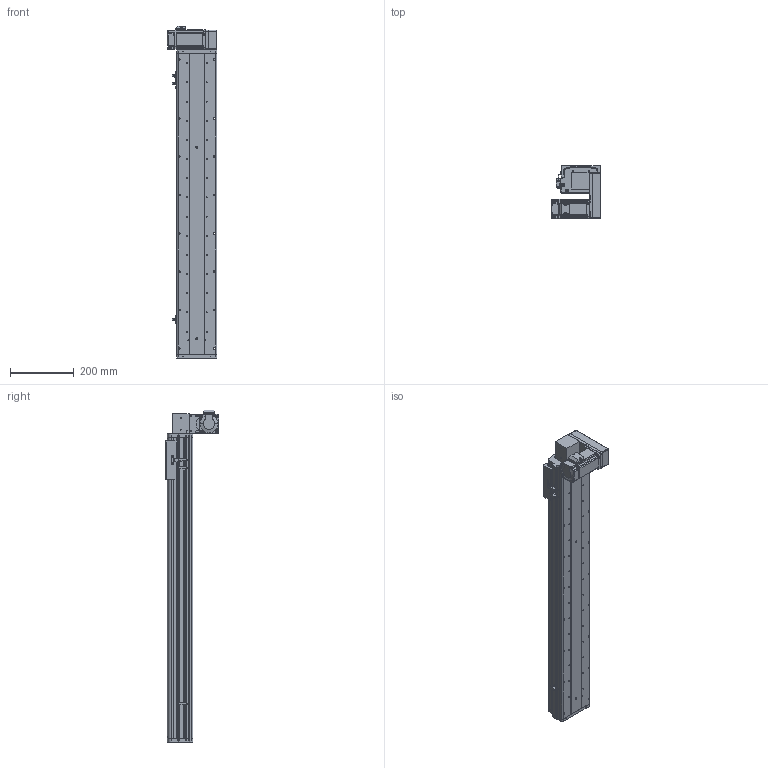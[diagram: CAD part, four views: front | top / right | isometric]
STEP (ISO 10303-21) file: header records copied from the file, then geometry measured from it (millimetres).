
FILE_DESCRIPTION (( 'STEP AP214' ), '1' );
FILE_NAME ('KSD125B-S750-MLD-CM.STEP', '2017-10-21T02:23:51', ( '微软用户' ), ( '微软中国' ), 'SwSTEP 2.0', 'SolidWorks 2014', '' );
FILE_SCHEMA (( 'AUTOMOTIVE_DESIGN' ));
Length unit declared in the file: millimetre
Products named in the file (17): 125模组750行程同步带-底板; MHMD042G1CA_2_03; KSD125模组同步带-防撞垫2; 覜茼え68遵圉猾敕; U倰嫖萇假蚾璃; U倰嫖萇EEㄜSX672; KSD125模组同步带-防撞垫1; 前端板-125宽模组同步带; 125模组同步带-尾端板1; KSD125模组同步带-滑动座1; KSD125B-S750-MLD-CM; 100宽马达安装板连板上下折丝杆同步带; 悵誘欶奻狟殏; HTPA30S3M150_A_H6_a佪裝蚚; HTPA30S3M150_A_H6_a萇儂蚚; 100宽马达安装板同步带左; KSD125模组750行程同步带-防尘盖
Assembly tree (20 placements, depth 2):
  KSD125B-S750-MLD-CM
    KSD125模组同步带-滑动座1
    125模组同步带-尾端板1
    前端板-125宽模组同步带
    KSD125模组同步带-防撞垫1
    U倰嫖萇EEㄜSX672  x3
    U倰嫖萇假蚾璃  x3
    覜茼え68遵圉猾敕
    KSD125模组同步带-防撞垫2
    MHMD042G1CA_2_03
    125模组750行程同步带-底板
    KSD125模组750行程同步带-防尘盖
    100宽马达安装板同步带左
    HTPA30S3M150_A_H6_a萇儂蚚
    HTPA30S3M150_A_H6_a佪裝蚚
    悵誘欶奻狟殏
    100宽马达安装板连板上下折丝杆同步带
Bounding box: 155 x 166.5 x 1039 mm (x, y, z)
Volume: 3259074.6 mm3; surface area: 1109836.1 mm2
Topology: 19 solids, 22 shells, 2275 faces, 6589 edges, 4354 vertices
Faces by surface type: cylinder 1424, plane 724, cone 105, bspline 22
Entity records: 80843 total; most frequent: CARTESIAN_POINT 15963, DIRECTION 12570, ORIENTED_EDGE 11698, EDGE_CURVE 5927, AXIS2_PLACEMENT_3D 4857, VERTEX_POINT 3946, LINE 2856, VECTOR 2856
